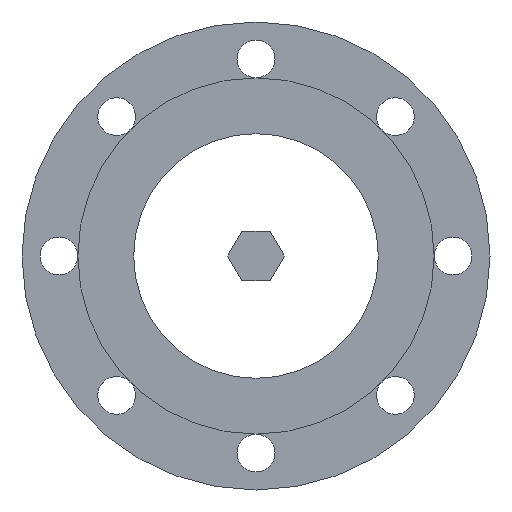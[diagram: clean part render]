
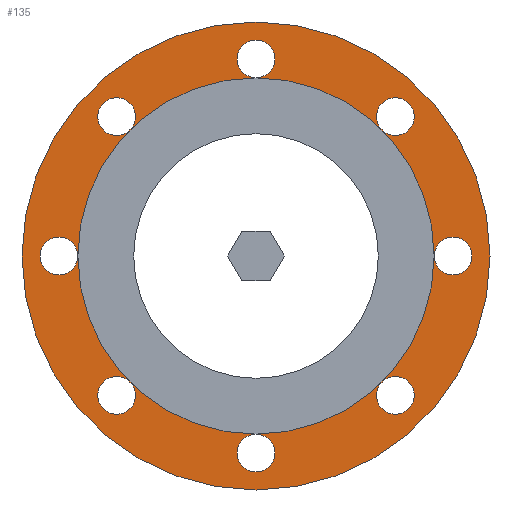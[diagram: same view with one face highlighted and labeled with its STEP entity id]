
A CAD part, front view. The second image highlights one B-rep face of the part: STEP entity #135.
In plain terms, the highlighted planar face has unit normal (0, -1, 0).
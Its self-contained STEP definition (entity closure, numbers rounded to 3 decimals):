
#135 = ADVANCED_FACE( '', ( #257, #258, #259, #260, #261, #262, #263, #264, #265, #266 ), #267, .T. );
#257 = FACE_OUTER_BOUND( '', #383, .T. );
#258 = FACE_BOUND( '', #384, .T. );
#259 = FACE_BOUND( '', #385, .T. );
#260 = FACE_BOUND( '', #386, .T. );
#261 = FACE_BOUND( '', #387, .T. );
#262 = FACE_BOUND( '', #388, .T. );
#263 = FACE_BOUND( '', #389, .T. );
#264 = FACE_BOUND( '', #390, .T. );
#265 = FACE_BOUND( '', #391, .T. );
#266 = FACE_BOUND( '', #392, .T. );
#267 = PLANE( '', #393 );
#383 = EDGE_LOOP( '', ( #530 ) );
#384 = EDGE_LOOP( '', ( #531 ) );
#385 = EDGE_LOOP( '', ( #532 ) );
#386 = EDGE_LOOP( '', ( #533 ) );
#387 = EDGE_LOOP( '', ( #534 ) );
#388 = EDGE_LOOP( '', ( #535 ) );
#389 = EDGE_LOOP( '', ( #536 ) );
#390 = EDGE_LOOP( '', ( #537 ) );
#391 = EDGE_LOOP( '', ( #538 ) );
#392 = EDGE_LOOP( '', ( #539 ) );
#393 = AXIS2_PLACEMENT_3D( '', #540, #541, #542 );
#530 = ORIENTED_EDGE( '', *, *, #641, .T. );
#531 = ORIENTED_EDGE( '', *, *, #679, .T. );
#532 = ORIENTED_EDGE( '', *, *, #680, .F. );
#533 = ORIENTED_EDGE( '', *, *, #671, .F. );
#534 = ORIENTED_EDGE( '', *, *, #637, .F. );
#535 = ORIENTED_EDGE( '', *, *, #681, .F. );
#536 = ORIENTED_EDGE( '', *, *, #682, .F. );
#537 = ORIENTED_EDGE( '', *, *, #677, .F. );
#538 = ORIENTED_EDGE( '', *, *, #683, .F. );
#539 = ORIENTED_EDGE( '', *, *, #669, .F. );
#540 = CARTESIAN_POINT( '', ( 82.5, 0., 0. ) );
#541 = DIRECTION( '', ( 0., -1., 0. ) );
#542 = DIRECTION( '', ( 0., 0., -1. ) );
#637 = EDGE_CURVE( '', #707, #707, #708, .T. );
#641 = EDGE_CURVE( '', #714, #714, #715, .T. );
#669 = EDGE_CURVE( '', #763, #763, #764, .T. );
#671 = EDGE_CURVE( '', #766, #766, #767, .T. );
#677 = EDGE_CURVE( '', #775, #775, #776, .T. );
#679 = EDGE_CURVE( '', #778, #778, #779, .F. );
#680 = EDGE_CURVE( '', #780, #780, #781, .T. );
#681 = EDGE_CURVE( '', #782, #782, #783, .T. );
#682 = EDGE_CURVE( '', #784, #784, #785, .T. );
#683 = EDGE_CURVE( '', #786, #786, #787, .T. );
#707 = VERTEX_POINT( '', #815 );
#708 = CIRCLE( '', #816, 11.5 );
#714 = VERTEX_POINT( '', #822 );
#715 = CIRCLE( '', #823, 142.5 );
#763 = VERTEX_POINT( '', #879 );
#764 = CIRCLE( '', #880, 82.5 );
#766 = VERTEX_POINT( '', #882 );
#767 = CIRCLE( '', #883, 11.5 );
#775 = VERTEX_POINT( '', #894 );
#776 = CIRCLE( '', #895, 11.5 );
#778 = VERTEX_POINT( '', #897 );
#779 = CIRCLE( '', #898, 11.5 );
#780 = VERTEX_POINT( '', #899 );
#781 = CIRCLE( '', #900, 11.5 );
#782 = VERTEX_POINT( '', #901 );
#783 = CIRCLE( '', #902, 11.5 );
#784 = VERTEX_POINT( '', #903 );
#785 = CIRCLE( '', #904, 11.5 );
#786 = VERTEX_POINT( '', #905 );
#787 = CIRCLE( '', #906, 11.5 );
#815 = CARTESIAN_POINT( '', ( -120., 0., -11.5 ) );
#816 = AXIS2_PLACEMENT_3D( '', #940, #941, #942 );
#822 = CARTESIAN_POINT( '', ( 0., 0., -142.5 ) );
#823 = AXIS2_PLACEMENT_3D( '', #949, #950, #951 );
#879 = CARTESIAN_POINT( '', ( 0., 0., -82.5 ) );
#880 = AXIS2_PLACEMENT_3D( '', #996, #997, #998 );
#882 = CARTESIAN_POINT( '', ( -84.853, 0., -96.353 ) );
#883 = AXIS2_PLACEMENT_3D( '', #999, #1000, #1001 );
#894 = CARTESIAN_POINT( '', ( 84.853, 0., 73.353 ) );
#895 = AXIS2_PLACEMENT_3D( '', #1005, #1006, #1007 );
#897 = CARTESIAN_POINT( '', ( 120., 0., -11.5 ) );
#898 = AXIS2_PLACEMENT_3D( '', #1008, #1009, #1010 );
#899 = CARTESIAN_POINT( '', ( 0., 0., -131.5 ) );
#900 = AXIS2_PLACEMENT_3D( '', #1011, #1012, #1013 );
#901 = CARTESIAN_POINT( '', ( -84.853, 0., 73.353 ) );
#902 = AXIS2_PLACEMENT_3D( '', #1014, #1015, #1016 );
#903 = CARTESIAN_POINT( '', ( 0., 0., 108.5 ) );
#904 = AXIS2_PLACEMENT_3D( '', #1017, #1018, #1019 );
#905 = CARTESIAN_POINT( '', ( 84.853, 0., -96.353 ) );
#906 = AXIS2_PLACEMENT_3D( '', #1020, #1021, #1022 );
#940 = CARTESIAN_POINT( '', ( -120., 0., 0. ) );
#941 = DIRECTION( '', ( 0., -1., 0. ) );
#942 = DIRECTION( '', ( 0., 0., -1. ) );
#949 = CARTESIAN_POINT( '', ( 0., 0., 0. ) );
#950 = DIRECTION( '', ( 0., -1., 0. ) );
#951 = DIRECTION( '', ( 0., 0., -1. ) );
#996 = CARTESIAN_POINT( '', ( 0., 0., 0. ) );
#997 = DIRECTION( '', ( 0., -1., 0. ) );
#998 = DIRECTION( '', ( 0., 0., -1. ) );
#999 = CARTESIAN_POINT( '', ( -84.853, 0., -84.853 ) );
#1000 = DIRECTION( '', ( 0., -1., 0. ) );
#1001 = DIRECTION( '', ( 0., 0., -1. ) );
#1005 = CARTESIAN_POINT( '', ( 84.853, 0., 84.853 ) );
#1006 = DIRECTION( '', ( 0., -1., 0. ) );
#1007 = DIRECTION( '', ( 0., 0., -1. ) );
#1008 = CARTESIAN_POINT( '', ( 120., 0., 0. ) );
#1009 = DIRECTION( '', ( 0., -1., 0. ) );
#1010 = DIRECTION( '', ( 0., 0., -1. ) );
#1011 = CARTESIAN_POINT( '', ( 0., 0., -120. ) );
#1012 = DIRECTION( '', ( 0., -1., 0. ) );
#1013 = DIRECTION( '', ( 0., 0., -1. ) );
#1014 = CARTESIAN_POINT( '', ( -84.853, 0., 84.853 ) );
#1015 = DIRECTION( '', ( 0., -1., 0. ) );
#1016 = DIRECTION( '', ( 0., 0., -1. ) );
#1017 = CARTESIAN_POINT( '', ( 0., 0., 120. ) );
#1018 = DIRECTION( '', ( 0., -1., 0. ) );
#1019 = DIRECTION( '', ( 0., 0., -1. ) );
#1020 = CARTESIAN_POINT( '', ( 84.853, 0., -84.853 ) );
#1021 = DIRECTION( '', ( 0., -1., 0. ) );
#1022 = DIRECTION( '', ( 0., 0., -1. ) );
